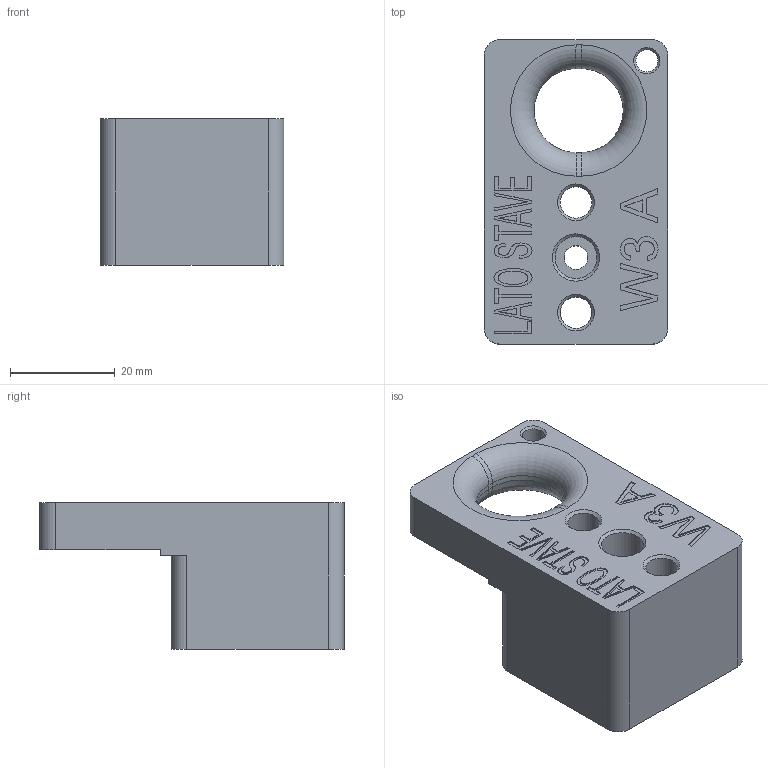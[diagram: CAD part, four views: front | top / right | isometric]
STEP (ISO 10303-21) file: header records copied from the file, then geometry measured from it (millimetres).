
FILE_DESCRIPTION(/* description */ (''),/* implementation_level */ '2;1');
FILE_NAME(/* name */ 'WHEELS-INSERT.17.stp',/* time_stamp */ '2018-05-25T14:23:52+02:00',/* author */ (''),/* organization */ (''),/* preprocessor_version */ 'ST-DEVELOPER v16.7',/* originating_system */ 'SIEMENS PLM Software NX 12.0',/* authorisation */ '');
FILE_SCHEMA (('AP203_CONFIGURATION_CONTROLLED_3D_DESIGN_OF_MECHANICAL_PARTS_AND_ASSEMBLIES_MIM_LF { 1 0 10303 403 2 1 2}'));
Length unit declared in the file: millimetre
Products named in the file (1): turc66A81BAD9zfe
Bounding box: 35 x 58 x 28 mm (x, y, z)
Volume: 34985.8 mm3; surface area: 9885.9 mm2
Topology: 1 solids, 1 shells, 174 faces, 451 edges, 295 vertices
Faces by surface type: plane 109, extrusion 26, cylinder 19, cone 12, torus 6, bspline 2
Full cylindrical faces by diameter (mm): 4.2 x3, 4.5 x1, 6 x2, 8 x1
Entity records: 6025 total; most frequent: CARTESIAN_POINT 2146, ORIENTED_EDGE 850, DIRECTION 587, EDGE_CURVE 425, VERTEX_POINT 290, B_SPLINE_CURVE_WITH_KNOTS 242, EDGE_LOOP 219, AXIS2_PLACEMENT_3D 205
